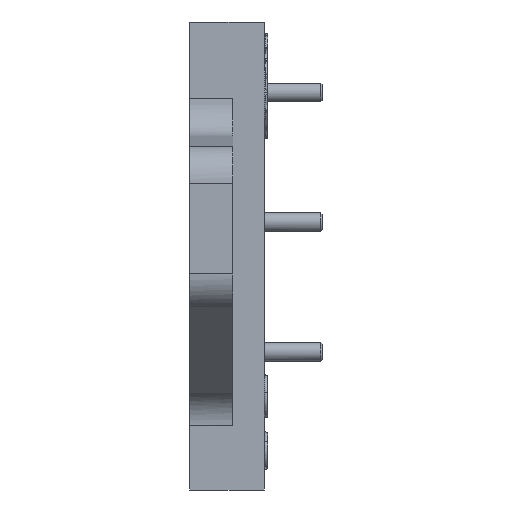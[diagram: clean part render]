
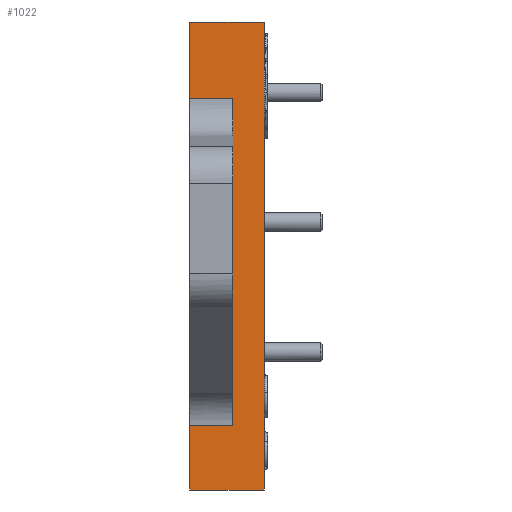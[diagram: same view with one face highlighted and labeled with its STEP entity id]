
A CAD part, front view. The second image highlights one B-rep face of the part: STEP entity #1022.
In plain terms, the highlighted planar face has unit normal (0, -1, 0) as drawn and (-1, 0, 0) by its records, which use the part's own axes.
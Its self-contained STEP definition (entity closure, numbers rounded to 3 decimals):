
#1022=ADVANCED_FACE('',(#1149),#3019,.T.);
#1149=FACE_OUTER_BOUND('',#1304,.T.);
#1304=EDGE_LOOP('',(#1639,#1640,#1641,#1642,#1643,#1644,#1645,#1646));
#1639=ORIENTED_EDGE('',*,*,#2111,.F.);
#1640=ORIENTED_EDGE('',*,*,#2200,.T.);
#1641=ORIENTED_EDGE('',*,*,#2128,.F.);
#1642=ORIENTED_EDGE('',*,*,#2201,.T.);
#1643=ORIENTED_EDGE('',*,*,#2132,.F.);
#1644=ORIENTED_EDGE('',*,*,#2108,.F.);
#1645=ORIENTED_EDGE('',*,*,#2202,.T.);
#1646=ORIENTED_EDGE('',*,*,#2203,.T.);
#2108=EDGE_CURVE('',#2786,#2783,#2432,.T.);
#2111=EDGE_CURVE('',#2809,#2810,#2434,.T.);
#2128=EDGE_CURVE('',#2821,#2822,#2446,.T.);
#2132=EDGE_CURVE('',#2783,#2824,#2448,.T.);
#2200=EDGE_CURVE('',#2809,#2822,#2472,.T.);
#2201=EDGE_CURVE('',#2821,#2824,#2473,.T.);
#2202=EDGE_CURVE('',#2786,#2843,#2474,.T.);
#2203=EDGE_CURVE('',#2843,#2810,#2475,.T.);
#2432=B_SPLINE_CURVE_WITH_KNOTS('',1,(#3934,#3935),.UNSPECIFIED.,.F.,.F.,
(2,2),(0.,250.),.UNSPECIFIED.);
#2434=B_SPLINE_CURVE_WITH_KNOTS('',1,(#3943,#3944),.UNSPECIFIED.,.F.,.F.,
(2,2),(0.,23.),.UNSPECIFIED.);
#2446=B_SPLINE_CURVE_WITH_KNOTS('',1,(#3984,#3985),.UNSPECIFIED.,.F.,.F.,
(2,2),(0.,23.),.UNSPECIFIED.);
#2448=B_SPLINE_CURVE_WITH_KNOTS('',1,(#3994,#3995),.UNSPECIFIED.,.F.,.F.,
(2,2),(0.,40.),.UNSPECIFIED.);
#2472=B_SPLINE_CURVE_WITH_KNOTS('',1,(#4262,#4263),.UNSPECIFIED.,.F.,.F.,
(2,2),(0.,174.747),.UNSPECIFIED.);
#2473=B_SPLINE_CURVE_WITH_KNOTS('',1,(#4264,#4265),.UNSPECIFIED.,.F.,.F.,
(2,2),(0.,34.25),.UNSPECIFIED.);
#2474=B_SPLINE_CURVE_WITH_KNOTS('',1,(#4266,#4267),.UNSPECIFIED.,.F.,.F.,
(2,2),(0.,40.),.UNSPECIFIED.);
#2475=B_SPLINE_CURVE_WITH_KNOTS('',1,(#4268,#4269),.UNSPECIFIED.,.F.,.F.,
(2,2),(0.,41.003),.UNSPECIFIED.);
#2783=VERTEX_POINT('',#3694);
#2786=VERTEX_POINT('',#3697);
#2809=VERTEX_POINT('',#3720);
#2810=VERTEX_POINT('',#3721);
#2821=VERTEX_POINT('',#3732);
#2822=VERTEX_POINT('',#3733);
#2824=VERTEX_POINT('',#3735);
#2843=VERTEX_POINT('',#3754);
#3019=PLANE('',#3305);
#3305=AXIS2_PLACEMENT_3D('',#3619,#3442,$);
#3442=DIRECTION('',(-1.,0.,0.));
#3619=CARTESIAN_POINT('',(-110.,-25.12,85.88));
#3694=CARTESIAN_POINT('',(-110.,0.,130.));
#3697=CARTESIAN_POINT('',(-110.,250.,130.));
#3720=CARTESIAN_POINT('',(-110.,208.997,113.));
#3721=CARTESIAN_POINT('',(-110.,208.997,90.));
#3732=CARTESIAN_POINT('',(-110.,34.25,90.));
#3733=CARTESIAN_POINT('',(-110.,34.25,113.));
#3735=CARTESIAN_POINT('',(-110.,0.,90.));
#3754=CARTESIAN_POINT('',(-110.,250.,90.));
#3934=CARTESIAN_POINT('',(-110.,250.,130.));
#3935=CARTESIAN_POINT('',(-110.,0.,130.));
#3943=CARTESIAN_POINT('',(-110.,208.997,113.));
#3944=CARTESIAN_POINT('',(-110.,208.997,90.));
#3984=CARTESIAN_POINT('',(-110.,34.25,90.));
#3985=CARTESIAN_POINT('',(-110.,34.25,113.));
#3994=CARTESIAN_POINT('',(-110.,0.,130.));
#3995=CARTESIAN_POINT('',(-110.,0.,90.));
#4262=CARTESIAN_POINT('',(-110.,208.997,113.));
#4263=CARTESIAN_POINT('',(-110.,34.25,113.));
#4264=CARTESIAN_POINT('',(-110.,34.25,90.));
#4265=CARTESIAN_POINT('',(-110.,0.,90.));
#4266=CARTESIAN_POINT('',(-110.,250.,130.));
#4267=CARTESIAN_POINT('',(-110.,250.,90.));
#4268=CARTESIAN_POINT('',(-110.,250.,90.));
#4269=CARTESIAN_POINT('',(-110.,208.997,90.));
